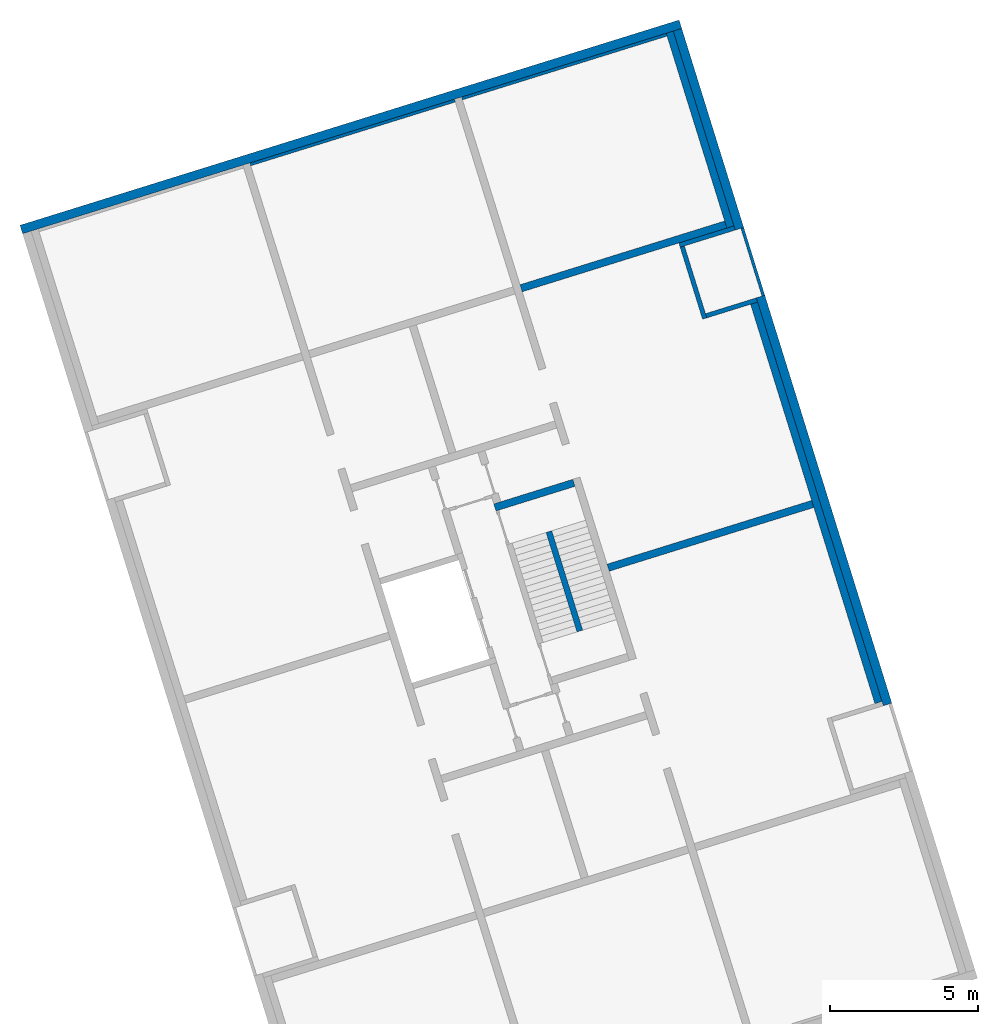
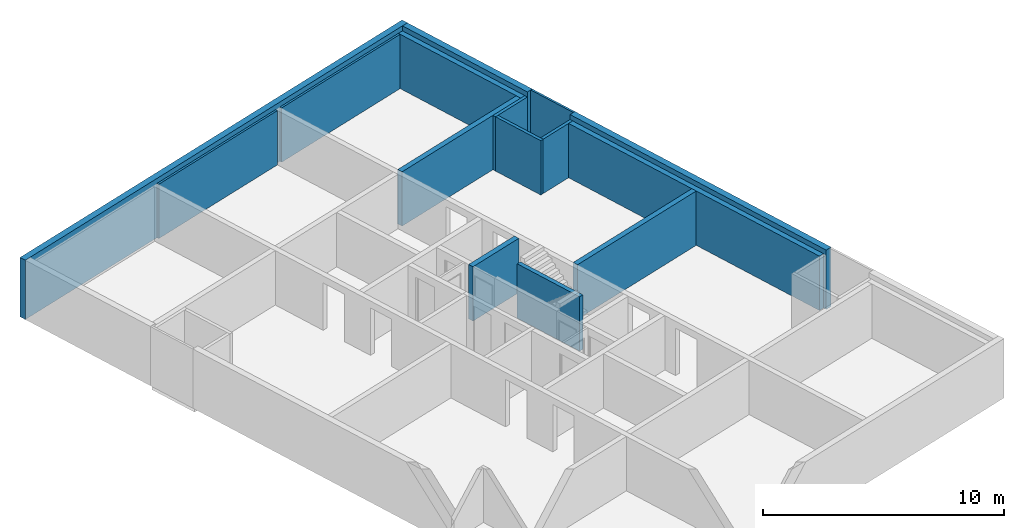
# One storey, part 3 of 4: 15 walls.
"""IFC4 building model written with IfcOpenShell, lengths in metres."""

from ifc_helpers import new_model, entity, si_unit, converted_unit, direction, frame, origin, place, context, subcontext, project, spatial, indexed_curve, outline, extrude, material, type_object, element, save


model = new_model("IFC4")

# Units and contexts
model_context = context("Model", 3, precision=1e-05, world=origin(), true_north=direction((6.12323399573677e-17, 1.0)))
body_context = subcontext(model_context, "Body", "Model", "MODEL_VIEW")
ifc_project = project(units=[si_unit("LENGTHUNIT", "METRE"), si_unit("AREAUNIT", "SQUARE_METRE"), si_unit("VOLUMEUNIT", "CUBIC_METRE"), converted_unit("PLANEANGLEUNIT", "DEGREE", entity("IfcPlaneAngleMeasure", 0.0174532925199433), si_unit("PLANEANGLEUNIT", "RADIAN"), dimensions=[0, 0, 0, 0, 0, 0, 0])], contexts=[model_context])

# Site, building, storey
site_placement = place(None, frame((13.1347999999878, 11.9886000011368, 0.0), z_axis=(0.0, 0.0, 1.0), x_axis=(0.954770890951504, 0.297342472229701, 0.0)))
site = spatial("IfcSite", under=ifc_project, at=site_placement, Name="Schiehaven", CompositionType="ELEMENT")
building_placement = place(site_placement, origin())
building = spatial("IfcBuilding", under=site, at=building_placement, Name="VORM huis", CompositionType="ELEMENT")
storey_placement = place(building_placement, frame((0.0, 0.0, 3.9)))
storey = spatial("IfcBuildingStorey", under=building, at=storey_placement, Name="01 eerste verdieping", CompositionType="ELEMENT", Elevation=3.9)

# Walls
ifc_material_1 = material(Name="beton_gewapend_ihw", Category="Miscellaneous")
wall_type_1 = type_object("IfcWallType", Name="Basic Wall:28_WA_skelet_wand 250mm_gen", PredefinedType="STANDARD")
wall_1_placement = place(storey_placement, frame((27.5000000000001, 9.97500000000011, 0.0), z_axis=(0.0, 0.0, 1.0), x_axis=(0.0, 1.0, 0.0)))
element("IfcWall", 1, at=wall_1_placement, inside=storey, type_object=wall_type_1, material=ifc_material_1, Name="Constructieve wand", ObjectType="Wand", PredefinedType="NOTDEFINED", context=body_context, shape_type="SweptSolid", body=[
    extrude(outline(indexed_curve([(14.1499999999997, 0.125000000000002), (1.14791568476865e-16, 0.125000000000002), (-1.14791568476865e-16, -0.125000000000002), (14.1499999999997, -0.125000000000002), (14.1499999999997, 0.125000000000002)], self_intersect=False)), origin(), (0.0, 0.0, 1.0), 2.75),
])
wall_2_placement = place(storey_placement, frame((27.5000000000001, 26.825, 0.0), z_axis=(0.0, 0.0, 1.0), x_axis=(0.0, 1.0, 0.0)))
element("IfcWall", 2, at=wall_2_placement, inside=storey, type_object=wall_type_1, material=ifc_material_1, Name="Constructieve wand", ObjectType="Wand", PredefinedType="NOTDEFINED", context=body_context, shape_type="SweptSolid", body=[
    extrude(outline(indexed_curve([(6.90000000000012, 0.125000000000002), (7.84686325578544e-17, 0.125000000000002), (-7.84686325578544e-17, -0.125000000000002), (6.90000000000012, -0.125000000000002), (6.90000000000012, 0.125000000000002)], self_intersect=False)), origin(), (0.0, 0.0, 1.0), 2.75),
])
ifc_material_2 = material(Name="ntb_ntb_ntb", Category="Miscellaneous")
wall_type_2 = type_object("IfcWallType", Name="Basic Wall:21_WA_gevel_binnenspouwwand 100mm_gen", PredefinedType="STANDARD")
wall_3_placement = place(storey_placement, frame((19.8750000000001, 33.675, 0.0), z_axis=(0.0, 0.0, 1.0), x_axis=(-1.0, 0.0, 0.0)))
element("IfcWall", 3, at=wall_3_placement, inside=storey, type_object=wall_type_2, material=ifc_material_2, Name="Binnenspouwblad", ObjectType="Wand", PredefinedType="NOTDEFINED", context=body_context, shape_type="SweptSolid", body=[
    extrude(outline(indexed_curve([(7.24999999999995, 0.0500000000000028), (-8.07179175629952e-18, 0.0500000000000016), (8.07179175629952e-18, -0.0500000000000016), (7.24999999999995, -0.0500000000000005), (7.24999999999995, 0.0500000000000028)], self_intersect=False)), origin(), (0.0, 0.0, 1.0), 2.75),
])
wall_4_placement = place(storey_placement, frame((20.1250000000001, 33.675, 0.0)))
element("IfcWall", 4, at=wall_4_placement, inside=storey, type_object=wall_type_2, material=ifc_material_2, Name="Binnenspouwblad", ObjectType="Wand", PredefinedType="NOTDEFINED", context=body_context, shape_type="SweptSolid", body=[
    extrude(outline(indexed_curve([(7.24999999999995, 0.0500000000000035), (-1.62265042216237e-16, 0.0500000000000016), (1.62265042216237e-16, -0.0500000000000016), (7.24999999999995, -0.0499999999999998), (7.24999999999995, 0.0500000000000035)], self_intersect=False)), origin(), (0.0, 0.0, 1.0), 2.75),
])
wall_type_3 = type_object("IfcWallType", Name="Basic Wall: 300mm_gen", PredefinedType="STANDARD")
wall_5_placement = place(storey_placement, frame((4.57500000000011, 33.875, 0.0)))
element("IfcWall", 5, at=wall_5_placement, inside=storey, type_object=wall_type_3, material=ifc_material_2, Name="Gevelwand", ObjectType="Wand", PredefinedType="NOTDEFINED", context=body_context, shape_type="SweptSolid", body=[
    extrude(outline(indexed_curve([(23.3500000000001, 0.150000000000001), (2.33346675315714e-16, 0.150000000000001), (-2.33346675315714e-16, -0.150000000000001), (23.3500000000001, -0.15), (23.3500000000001, 0.150000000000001)], self_intersect=False)), origin(), (0.0, 0.0, 1.0), 3.0),
])
wall_6_placement = place(storey_placement, frame((27.7750000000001, 9.82500000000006, 0.0), z_axis=(0.0, 0.0, 1.0), x_axis=(0.0, 1.0, 0.0)))
element("IfcWall", 6, at=wall_6_placement, inside=storey, type_object=wall_type_3, material=ifc_material_2, Name="Gevelwand", ObjectType="Wand", PredefinedType="NOTDEFINED", context=body_context, shape_type="SweptSolid", body=[
    extrude(outline(indexed_curve([(14.4499999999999, 0.150000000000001), (-3.14743387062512e-16, 0.150000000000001), (3.14743387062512e-16, -0.150000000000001), (14.4499999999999, -0.150000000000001), (14.4499999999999, 0.150000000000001)], self_intersect=False)), origin(), (0.0, 0.0, 1.0), 3.0),
])
wall_7_placement = place(storey_placement, frame((27.7750000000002, 26.6749999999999, 0.0), z_axis=(0.0, 0.0, 1.0), x_axis=(0.0, 1.0, 0.0)))
element("IfcWall", 7, at=wall_7_placement, inside=storey, type_object=wall_type_3, material=ifc_material_2, Name="Gevelwand", ObjectType="Wand", PredefinedType="NOTDEFINED", context=body_context, shape_type="SweptSolid", body=[
    extrude(outline(indexed_curve([(7.04999999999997, 0.15), (-4.51194637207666e-16, 0.150000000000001), (4.51194637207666e-16, -0.150000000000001), (7.04999999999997, -0.150000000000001), (7.04999999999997, 0.15)], self_intersect=False)), origin(), (0.0, 0.0, 1.0), 3.0),
])
ifc_material_3 = material(Name="beton_gewapend_prefab-element", Category="Miscellaneous")
wall_type_4 = type_object("IfcWallType", Name="Basic Wall:28_WA_skelet_wand 200mm_gen", PredefinedType="STANDARD")
wall_8_placement = place(storey_placement, frame((18.5750000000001, 15.29, 0.0), z_axis=(0.0, 0.0, 1.0), x_axis=(0.0, 1.0, 0.0)))
element("IfcWall", 8, at=wall_8_placement, inside=storey, type_object=wall_type_4, material=ifc_material_3, Name="Constructieve wand", ObjectType="Wand", PredefinedType="NOTDEFINED", context=body_context, shape_type="SweptSolid", body=[
    extrude(outline(indexed_curve([(3.52, 0.0999999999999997), (-6.36077049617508e-16, 0.0999999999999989), (6.36077049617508e-16, -0.0999999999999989), (3.52, -0.0999999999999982), (3.52, 0.0999999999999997)], self_intersect=False)), origin(), (0.0, 0.0, 1.0), 2.75),
])
wall_type_5 = type_object("IfcWallType", Name="Basic Wall:22_WA_afbouw_binnenwand 250mm_gen", PredefinedType="STANDARD")
wall_9_placement = place(storey_placement, frame((19.8750000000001, 20.135, 0.0), z_axis=(0.0, 0.0, 1.0), x_axis=(-1.0, 0.0, 0.0)))
element("IfcWall", 9, at=wall_9_placement, inside=storey, type_object=wall_type_5, material=ifc_material_2, Name="Binnenwand", ObjectType="Wand", PredefinedType="NOTDEFINED", context=body_context, shape_type="SweptSolid", body=[
    extrude(outline(indexed_curve([(2.8, 0.125000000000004), (-4.9649652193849e-16, 0.125000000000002), (4.9649652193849e-16, -0.125000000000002), (2.80000000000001, -0.124999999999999), (2.8, 0.125000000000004)], self_intersect=False)), origin(), (0.0, 0.0, 1.0), 2.75),
])
wall_10_placement = place(storey_placement, frame((20.125, 17.05, 0.0)))
element("IfcWall", 10, at=wall_10_placement, inside=storey, type_object=wall_type_5, material=ifc_material_2, Name="Binnenwand", ObjectType="Wand", PredefinedType="NOTDEFINED", context=body_context, shape_type="SweptSolid", body=[
    extrude(outline(indexed_curve([(7.24999999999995, 0.125), (-1.92055213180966e-16, 0.125), (1.92055213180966e-16, -0.125), (7.24999999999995, -0.124999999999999), (7.24999999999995, 0.125)], self_intersect=False)), origin(), (0.0, 0.0, 1.0), 2.75),
])
wall_11_placement = place(storey_placement, frame((20.1250000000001, 26.9499999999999, 0.0)))
element("IfcWall", 11, at=wall_11_placement, inside=storey, type_object=wall_type_5, material=ifc_material_2, Name="Binnenwand", ObjectType="Wand", PredefinedType="NOTDEFINED", context=body_context, shape_type="SweptSolid", body=[
    extrude(outline(indexed_curve([(7.24999999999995, 0.124999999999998), (-6.13193370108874e-16, 0.125000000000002), (6.13193370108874e-16, -0.125000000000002), (7.24999999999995, -0.125000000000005), (7.24999999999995, 0.124999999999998)], self_intersect=False)), origin(), (0.0, 0.0, 1.0), 2.75),
])
wall_type_6 = type_object("IfcWallType", Name="Basic Wall: 150mm_gen", PredefinedType="STANDARD")
wall_12_placement = place(storey_placement, frame((27.6250000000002, 26.75, 0.0), z_axis=(0.0, 0.0, 1.0), x_axis=(-1.0, 0.0, 0.0)))
element("IfcWall", 12, at=wall_12_placement, inside=storey, type_object=wall_type_6, material=ifc_material_2, Name="Gevelwand", ObjectType="Wand", PredefinedType="NOTDEFINED", context=body_context, shape_type="SweptSolid", body=[
    extrude(outline(indexed_curve([(1.95, 0.0750000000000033), (-1.17111845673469e-16, 0.0750000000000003), (1.17111845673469e-16, -0.0750000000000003), (1.95, -0.0749999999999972), (1.95, 0.0750000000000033)], self_intersect=False)), origin(), (0.0, 0.0, 1.0), 2.75),
])
wall_13_placement = place(storey_placement, frame((25.7500000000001, 26.675, 0.0), z_axis=(0.0, 0.0, 1.0), x_axis=(0.0, -1.0, 0.0)))
element("IfcWall", 13, at=wall_13_placement, inside=storey, type_object=wall_type_6, material=ifc_material_2, Name="Gevelwand", ObjectType="Wand", PredefinedType="NOTDEFINED", context=body_context, shape_type="SweptSolid", body=[
    extrude(outline(indexed_curve([(2.55, 0.0750000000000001), (1.31948999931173e-16, 0.0750000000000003), (-1.31948999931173e-16, -0.0750000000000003), (2.55, -0.0750000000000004), (2.55, 0.0750000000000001)], self_intersect=False)), origin(), (0.0, 0.0, 1.0), 2.75),
])
wall_14_placement = place(storey_placement, frame((25.8250000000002, 24.2, 0.0)))
element("IfcWall", 14, at=wall_14_placement, inside=storey, type_object=wall_type_6, material=ifc_material_2, Name="Gevelwand", ObjectType="Wand", PredefinedType="NOTDEFINED", context=body_context, shape_type="SweptSolid", body=[
    extrude(outline(indexed_curve([(1.8, 0.0749999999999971), (1.31948999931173e-16, 0.0750000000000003), (-1.31948999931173e-16, -0.0750000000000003), (1.8, -0.0750000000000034), (1.8, 0.0749999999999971)], self_intersect=False)), origin(), (0.0, 0.0, 1.0), 2.75),
])
wall_type_7 = type_object("IfcWallType", Name="Basic Wall: 100mm_gen", PredefinedType="STANDARD")
wall_15_placement = place(storey_placement, frame((27.8750000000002, 26.6749999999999, 0.0), z_axis=(0.0, 0.0, 1.0), x_axis=(0.0, -1.0, 0.0)))
element("IfcWall", 15, at=wall_15_placement, inside=storey, type_object=wall_type_7, material=ifc_material_2, Name="Gevelwand", ObjectType="Wand", PredefinedType="NOTDEFINED", context=body_context, shape_type="SweptSolid", body=[
    extrude(outline(indexed_curve([(2.4, 0.050000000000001), (1.39961647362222e-17, 0.0500000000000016), (-1.39961647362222e-17, -0.0500000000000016), (2.4, -0.0500000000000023), (2.4, 0.050000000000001)], self_intersect=False)), origin(), (0.0, 0.0, 1.0), 3.0),
])

save(model, "model.ifc")
